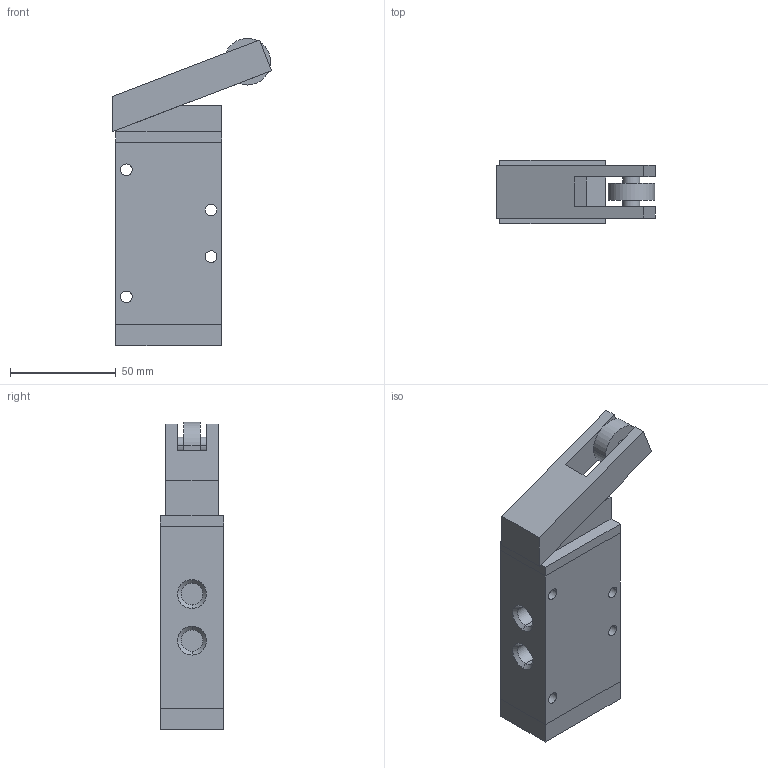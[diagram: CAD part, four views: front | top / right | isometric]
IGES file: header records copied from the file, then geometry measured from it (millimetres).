
Global section: file name: No Iges File Name specified; native system: AutoDesk Inventor R11.0; preprocessor: AutoDesk Inventor Iges Exporter R11.0; author: No Author specified; organization: No Organization specified; date: 20061219.113635; units: millimetre
Bounding box: 75 x 30 x 145 mm (x, y, z)
Volume: 176605.4 mm3; surface area: 31295.3 mm2
Topology: 1 solids, 1 shells, 71 faces, 167 edges, 108 vertices
Faces by surface type: plane 32, bspline 25, revolution 8, cylinder 6
